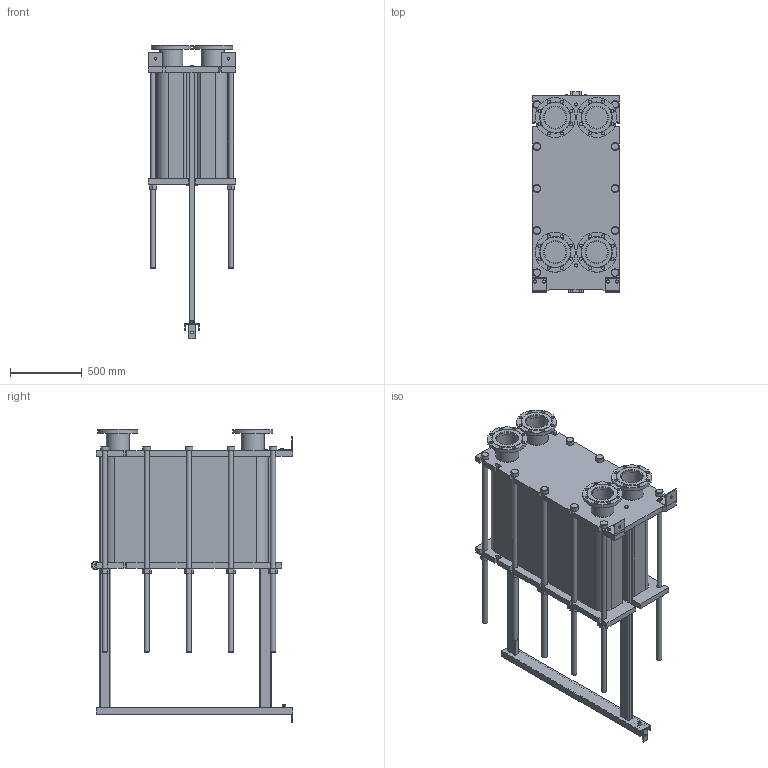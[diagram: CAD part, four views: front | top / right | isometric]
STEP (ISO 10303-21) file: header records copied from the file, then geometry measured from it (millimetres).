
FILE_DESCRIPTION(/* description */ (''),/* implementation_level */ '2;1');
FILE_NAME(/* name */ 'C:\Users\zhuro\Desktop\ENCO\TO\ЭН-041\ЭН-0,5-041-215-1.stp',/* time_stamp */ '2022-06-06T11:07:07+03:00',/* author */ ('zhuro'),/* organization */ (''),/* preprocessor_version */ 'ST-DEVELOPER v18.1',/* originating_system */ 'Autodesk Inventor 2022',/* authorisation */ '');
FILE_SCHEMA (('AUTOMOTIVE_DESIGN { 1 0 10303 214 3 1 1 }'));
Length unit declared in the file: millimetre
Products named in the file (1): ЭН-0,5-041-215-1
Bounding box: 610 x 1406.5 x 2052.5 mm (x, y, z)
Volume: 505742347.7 mm3; surface area: 11560166.8 mm2
Topology: 52 solids, 52 shells, 711 faces, 1696 edges, 1094 vertices
Faces by surface type: plane 487, cylinder 177, cone 41, torus 6
Full cylindrical faces by diameter (mm): 8 x4, 10 x2, 16 x8, 18 x3, 22 x32, 36 x24, 50 x1, 54 x10, 60 x12, 151 x4, 161 x8, 280 x4
Entity records: 22667 total; most frequent: CARTESIAN_POINT 5230, DIRECTION 3644, ORIENTED_EDGE 3392, EDGE_CURVE 1696, AXIS2_PLACEMENT_3D 1272, LINE 1100, VECTOR 1100, VERTEX_POINT 1094
